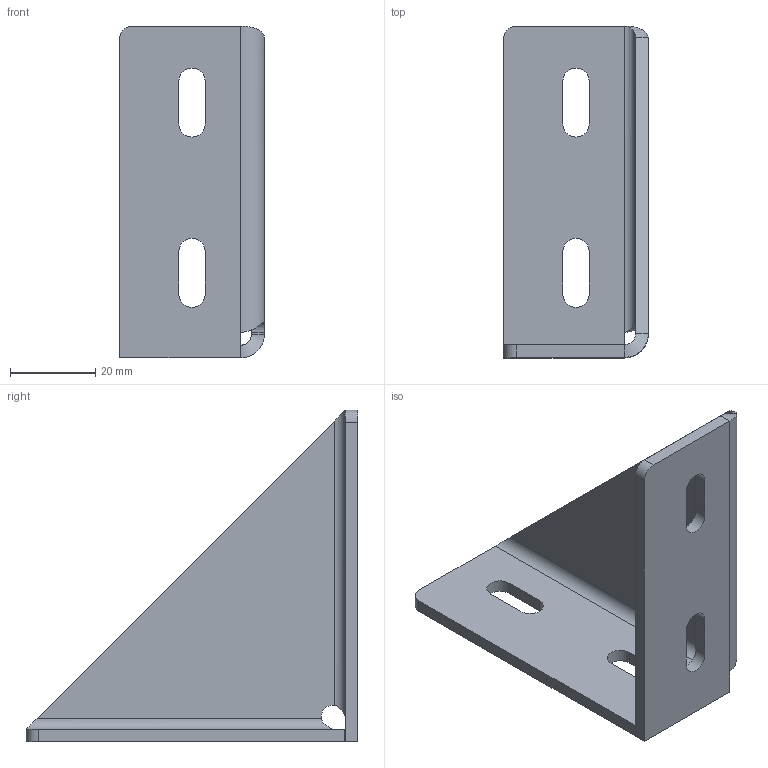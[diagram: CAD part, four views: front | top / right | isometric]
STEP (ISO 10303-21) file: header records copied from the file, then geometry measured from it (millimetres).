
FILE_DESCRIPTION (( 'STEP AP214' ), '1' );
FILE_NAME ('8204s.STEP', '2015-04-08T10:18:02', ( '' ), ( '' ), 'SwSTEP 2.0', 'SolidWorks 2014', '' );
FILE_SCHEMA (( 'AUTOMOTIVE_DESIGN' ));
Length unit declared in the file: millimetre
Products named in the file (1): 8204s
Bounding box: 34 x 78 x 78 mm (x, y, z)
Volume: 21888.4 mm3; surface area: 16280.4 mm2
Topology: 1 solids, 1 shells, 46 faces, 116 edges, 72 vertices
Faces by surface type: plane 25, cylinder 17, bspline 4
Entity records: 1512 total; most frequent: CARTESIAN_POINT 381, ORIENTED_EDGE 232, DIRECTION 216, EDGE_CURVE 116, VECTOR 78, LINE 78, VERTEX_POINT 72, AXIS2_PLACEMENT_3D 69
